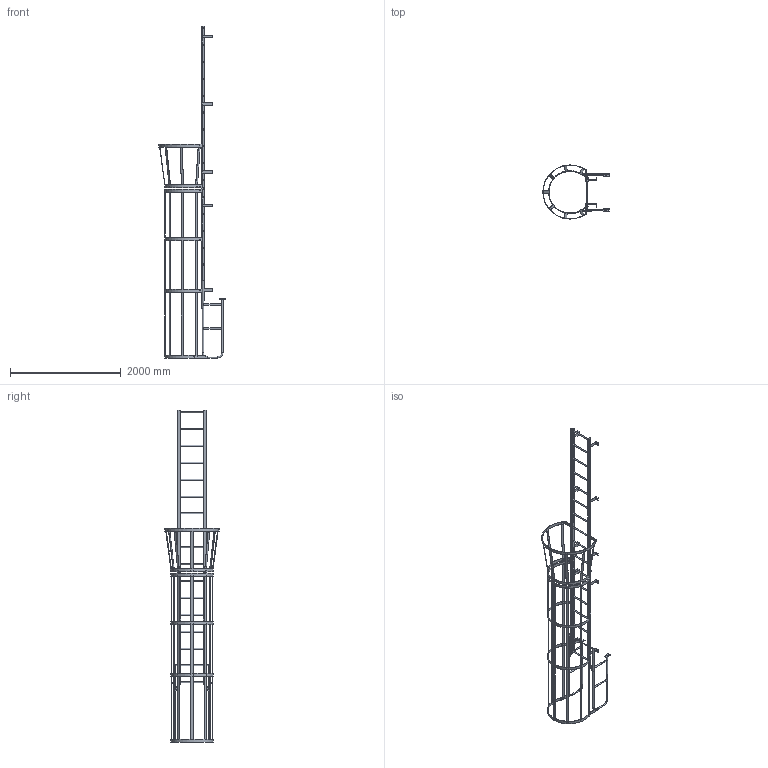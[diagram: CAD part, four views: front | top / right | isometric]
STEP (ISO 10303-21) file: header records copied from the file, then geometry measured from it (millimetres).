
FILE_DESCRIPTION(/* description */ (''),/* implementation_level */ '2;1');
FILE_NAME(/* name */ 'P:\MIKEL & KAREN\D0570196-03 F17WC SIMPLIFIED PART.stp',/* time_stamp */ '2018-07-03T08:15:25-04:00',/* author */ ('stephanie'),/* organization */ (''),/* preprocessor_version */ 'ST-DEVELOPER v16.1',/* originating_system */ 'Autodesk Inventor 2016',/* authorisation */ '');
FILE_SCHEMA (('AUTOMOTIVE_DESIGN { 1 0 10303 214 3 1 1 }'));
Length unit declared in the file: centimetre
Products named in the file (1): D0570196-03 F17WC SIMPLIFIED PART
Bounding box: 1195.62 x 977.88 x 5991.23 mm (x, y, z)
Volume: 18714154 mm3; surface area: 7328055.3 mm2
Topology: 23 solids, 24 shells, 733 faces, 2175 edges, 1412 vertices
Faces by surface type: plane 468, cylinder 233, cone 24, torus 8
Full cylindrical faces by diameter (mm): 10.319 x4, 12.7 x3, 14.287 x11, 16.193 x1, 19.05 x18, 22.098 x10, 22.225 x34, 25.4 x10
Entity records: 24996 total; most frequent: CARTESIAN_POINT 4598, ORIENTED_EDGE 4092, DIRECTION 4028, EDGE_CURVE 2014, VERTEX_POINT 1356, LINE 1348, VECTOR 1348, AXIS2_PLACEMENT_3D 1340
